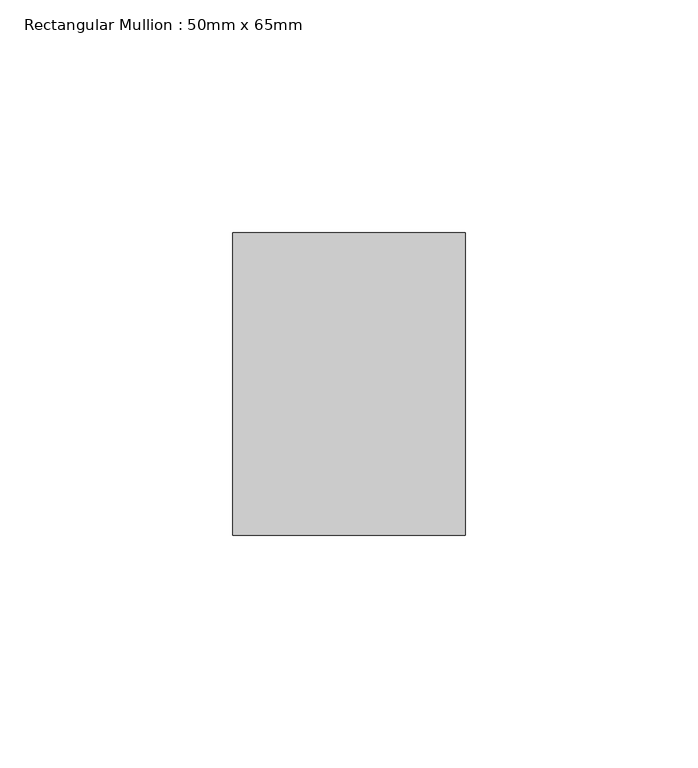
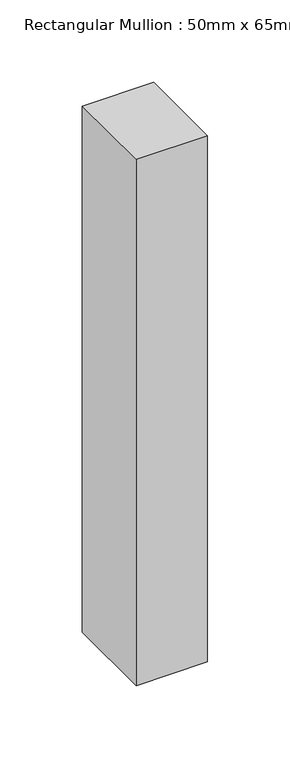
"""IFC4 building model written with IfcOpenShell, lengths in millimetres: member geometry, Rectangular Mullion : 50mm x 65mm."""

from ifc_helpers import new_model, si_unit, frame, origin, place, context, project, spatial, polyline, outline, extrude, source, transform, mapped, element, save


def rectangular_mullion_50mm_x_65mm_29f2aee9(model_context):
    return source(origin(), model_context, "Body", "SweptSolid", [
        extrude(outline(polyline([(0.0, 32.5), (0.0, -32.5), (-50.0, -32.5), (-50.0, 32.5), (0.0, 32.5)])), frame((0.0, 0.0, -389.6492222), z_axis=(0.0, 0.0, 1.0), x_axis=(1.0, 0.0, 0.0)), (0.0, 0.0, 1.0), 389.6492222),
    ])


if __name__ == "__main__":
    model = new_model("IFC4")
    model_context = context("Model", 3, world=origin())
    ifc_project = project(units=[si_unit("LENGTHUNIT", "METRE", prefix="MILLI")], contexts=[model_context])
    site = spatial("IfcSite", under=ifc_project)
    building = spatial("IfcBuilding", under=site)
    placement = place(None, origin())
    rectangular_mullion_50mm_x_65mm_shape = rectangular_mullion_50mm_x_65mm_29f2aee9(model_context)
    element("IfcMember", 1, ObjectType="Rectangular Mullion : 50mm x 65mm", at=placement, inside=building, context=model_context, shape_type="MappedRepresentation", body=[
        mapped(rectangular_mullion_50mm_x_65mm_shape, transform((0.0, 0.0, 0.0), x_axis=(1.0, 0.0, 0.0), y_axis=(0.0, 1.0, 0.0), z_axis=(0.0, 0.0, 1.0))),
    ])
    save(model, "model.ifc")
